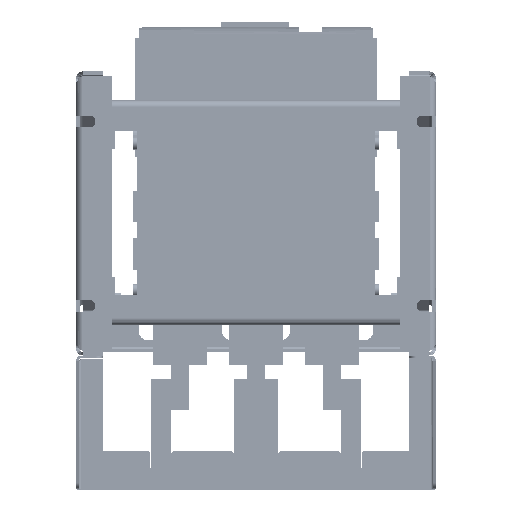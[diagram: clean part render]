
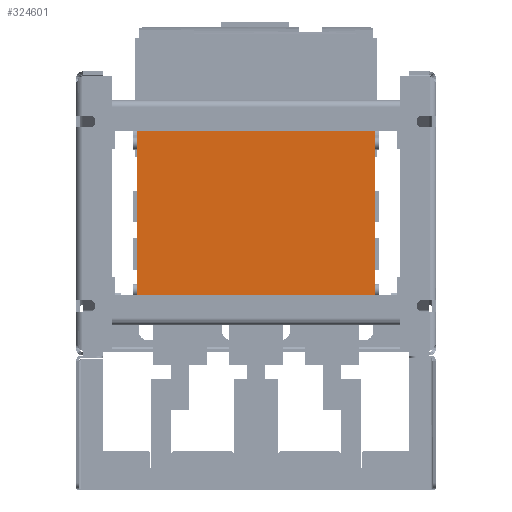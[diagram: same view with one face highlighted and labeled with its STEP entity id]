
A CAD part, front view. The second image highlights one B-rep face of the part: STEP entity #324601.
In plain terms, the highlighted planar face has unit normal (0, -1, 0).
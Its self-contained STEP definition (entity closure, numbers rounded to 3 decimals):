
#5285 = EDGE_LOOP ( 'NONE', ( #257210, #194615, #305450, #223884 ) ) ;
#14601 = LINE ( 'NONE', #246419, #163855 ) ;
#14614 = CARTESIAN_POINT ( 'NONE',  ( 132., 128., 118. ) ) ;
#51792 = FACE_OUTER_BOUND ( 'NONE', #5285, .T. ) ;
#55585 = DIRECTION ( 'NONE',  ( 0., 0., 1. ) ) ;
#55705 = LINE ( 'NONE', #80792, #204946 ) ;
#59935 = VERTEX_POINT ( 'NONE', #269956 ) ;
#68137 = DIRECTION ( 'NONE',  ( 0., 0., 1. ) ) ;
#80792 = CARTESIAN_POINT ( 'NONE',  ( 132., 128., 118. ) ) ;
#91956 = DIRECTION ( 'NONE',  ( 0., 0., 1. ) ) ;
#100356 = VERTEX_POINT ( 'NONE', #288638 ) ;
#103860 = LINE ( 'NONE', #267455, #253028 ) ;
#131583 = DIRECTION ( 'NONE',  ( -1., 0., 0. ) ) ;
#153403 = CARTESIAN_POINT ( 'NONE',  ( 132., 128., -118. ) ) ;
#161542 = DIRECTION ( 'NONE',  ( 0., 1., 0. ) ) ;
#163855 = VECTOR ( 'NONE', #91956, 1000. ) ;
#186427 = CARTESIAN_POINT ( 'NONE',  ( 195.5, 128., 118. ) ) ;
#188463 = EDGE_CURVE ( 'NONE', #308498, #248090, #305804, .T. ) ;
#189420 = EDGE_CURVE ( 'NONE', #100356, #308498, #103860, .T. ) ;
#194615 = ORIENTED_EDGE ( 'NONE', *, *, #188463, .T. ) ;
#204946 = VECTOR ( 'NONE', #131583, 1000. ) ;
#217861 = DIRECTION ( 'NONE',  ( 1., 0., 0. ) ) ;
#223884 = ORIENTED_EDGE ( 'NONE', *, *, #249484, .F. ) ;
#237132 = PLANE ( 'NONE',  #295810 ) ;
#246419 = CARTESIAN_POINT ( 'NONE',  ( -132., 128., -118. ) ) ;
#246751 = EDGE_CURVE ( 'NONE', #248090, #59935, #55705, .T. ) ;
#248090 = VERTEX_POINT ( 'NONE', #14614 ) ;
#249484 = EDGE_CURVE ( 'NONE', #100356, #59935, #14601, .T. ) ;
#253028 = VECTOR ( 'NONE', #217861, 1000. ) ;
#257210 = ORIENTED_EDGE ( 'NONE', *, *, #189420, .T. ) ;
#267455 = CARTESIAN_POINT ( 'NONE',  ( -132., 128., -118. ) ) ;
#269956 = CARTESIAN_POINT ( 'NONE',  ( -132., 128., 118. ) ) ;
#288638 = CARTESIAN_POINT ( 'NONE',  ( -132., 128., -118. ) ) ;
#295810 = AXIS2_PLACEMENT_3D ( 'NONE', #186427, #161542, #55585 ) ;
#300514 = CARTESIAN_POINT ( 'NONE',  ( 132., 128., -118. ) ) ;
#305450 = ORIENTED_EDGE ( 'NONE', *, *, #246751, .T. ) ;
#305804 = LINE ( 'NONE', #300514, #321981 ) ;
#308498 = VERTEX_POINT ( 'NONE', #153403 ) ;
#321981 = VECTOR ( 'NONE', #68137, 1000. ) ;
#324601 = ADVANCED_FACE ( 'NONE', ( #51792 ), #237132, .F. ) ;
